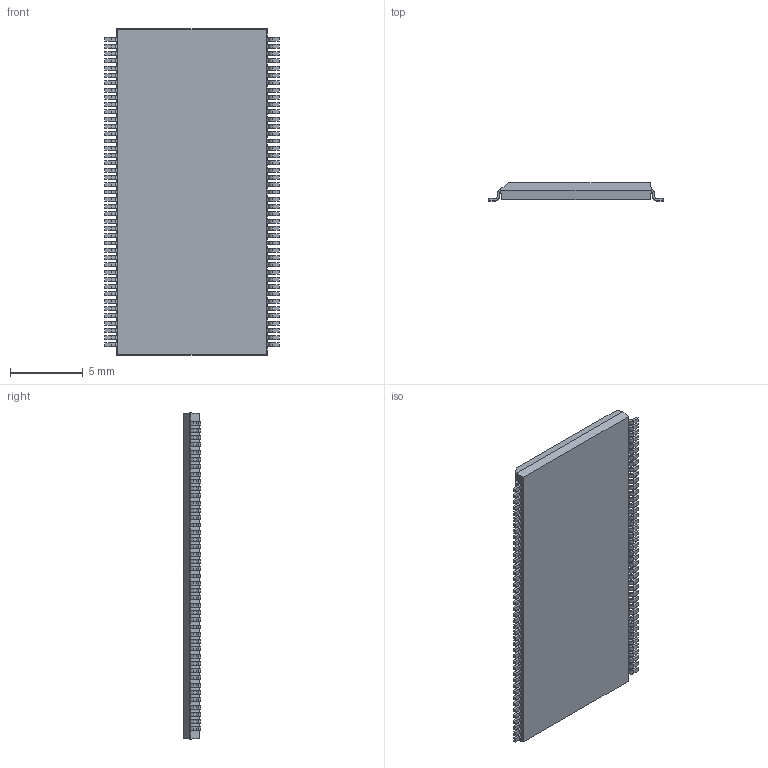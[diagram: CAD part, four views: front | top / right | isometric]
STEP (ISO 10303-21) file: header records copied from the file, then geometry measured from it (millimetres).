
FILE_DESCRIPTION (( 'STEP AP214' ), '1' );
FILE_NAME ('TSSOP50P1176X120-86_MS-024.FB.STEP', '2014-12-19T14:14:54', ( 'Tester2' ), ( '' ), 'SwSTEP 2.0', 'SolidWorks 2012', '' );
FILE_SCHEMA (( 'AUTOMOTIVE_DESIGN' ));
Length unit declared in the file: millimetre
Products named in the file (1): TSSOP50P1176X120-86_MS-024.FB
Bounding box: 11.96 x 1.2 x 22.42 mm (x, y, z)
Volume: 254.8 mm3; surface area: 610.1 mm2
Topology: 1 solids, 1 shells, 960 faces, 2867 edges, 1910 vertices
Faces by surface type: plane 614, cylinder 346
Entity records: 42744 total; most frequent: CARTESIAN_POINT 5738, ORIENTED_EDGE 5734, DIRECTION 5481, EDGE_CURVE 2867, LINE 2175, VECTOR 2175, VERTEX_POINT 1910, AXIS2_PLACEMENT_3D 1653
